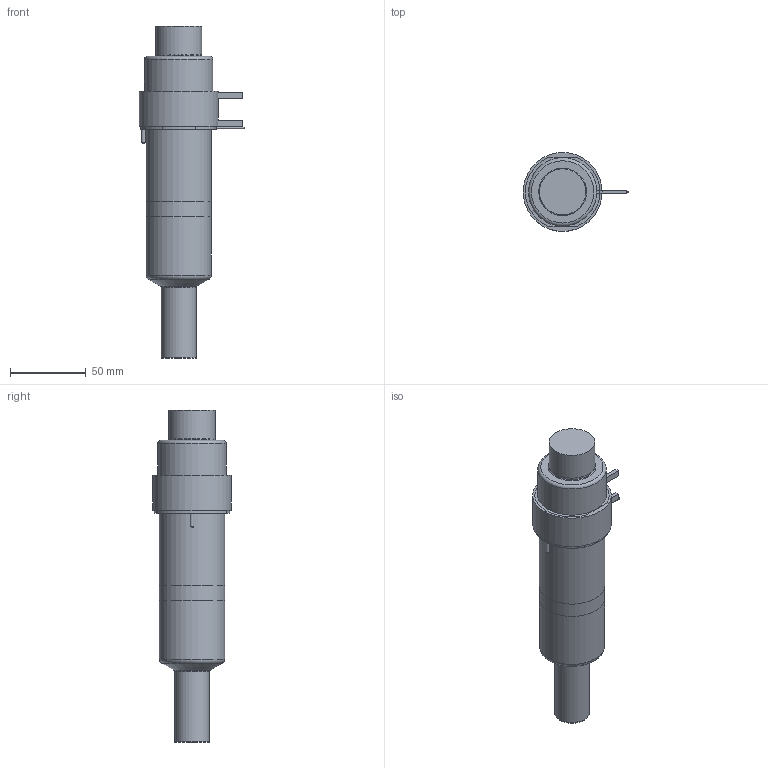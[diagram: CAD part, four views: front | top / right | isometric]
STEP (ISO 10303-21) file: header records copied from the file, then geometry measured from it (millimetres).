
FILE_DESCRIPTION(/* description */ (''),/* implementation_level */ '2;1');
FILE_NAME(/* name */ 'SXTSL-SXISL-SXOSL27115_250C_b',/* time_stamp */ '2008-04-30T09:06:44+12:00',/* author */ (''),/* organization */ (''),/* preprocessor_version */ 'ST-DEVELOPER v9',/* originating_system */ 'UGS - NX 4.0',/* authorisation */ '');
FILE_SCHEMA (('CONFIG_CONTROL_DESIGN'));
Length unit declared in the file: millimetre
Products named in the file (1): SXTSL-SXISL-SXOSL27115_250C_b
Bounding box: 69.6 x 52 x 218.7 mm (x, y, z)
Volume: 488651.1 mm3; surface area: 62338.4 mm2
Topology: 7 solids, 7 shells, 92 faces, 181 edges, 117 vertices
Faces by surface type: plane 43, cylinder 28, torus 10, cone 10, bspline 1
Full cylindrical faces by diameter (mm): 1 x3, 2 x1, 2.5 x2, 12 x1, 22.61 x1, 23.01 x2, 27.5 x1, 30 x1, 30.4 x1, 38.1 x2, 43 x2, 45 x1, 50 x1, 52 x1
Entity records: 2377 total; most frequent: CARTESIAN_POINT 543, DIRECTION 384, ORIENTED_EDGE 278, AXIS2_PLACEMENT_3D 167, EDGE_LOOP 140, EDGE_CURVE 139, VERTEX_POINT 110, ADVANCED_FACE 92
